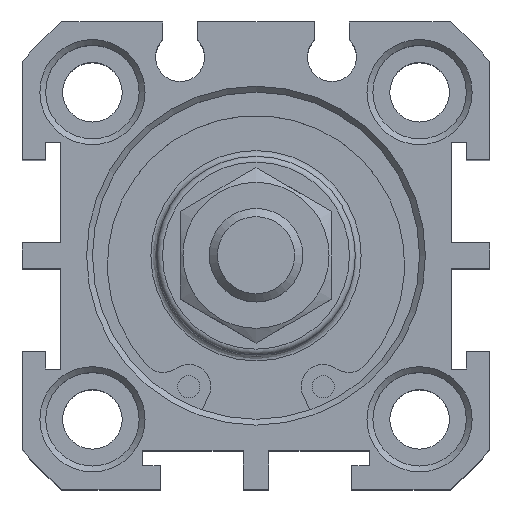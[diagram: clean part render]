
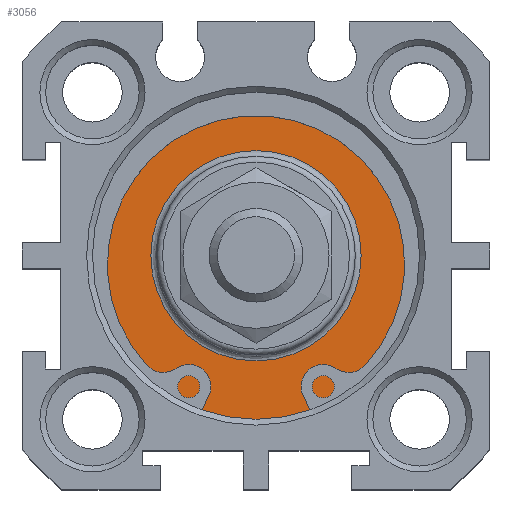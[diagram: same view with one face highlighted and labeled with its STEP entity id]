
A CAD part, top view. The second image highlights one B-rep face of the part: STEP entity #3056.
In plain terms, the highlighted planar face has unit normal (0, 0, 1).
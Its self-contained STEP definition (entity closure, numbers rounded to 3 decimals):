
#3005=CARTESIAN_POINT('',(0.12,10.914,28.3));
#3006=VERTEX_POINT('',#3005);
#3007=CARTESIAN_POINT('',(0.12,1.914,28.3));
#3008=DIRECTION('',(0.0,0.0,1.0));
#3009=DIRECTION('',(0.0,-1.0,0.0));
#3010=AXIS2_PLACEMENT_3D('',#3007,#3008,#3009);
#3011=CIRCLE('',#3010,9.);
#3012=EDGE_CURVE('',#3006,#3006,#3011,.T.);
#3037=CARTESIAN_POINT('',(0.12,13.164,28.3));
#3038=DIRECTION('',(0.0,0.0,1.0));
#3039=DIRECTION('',(1.0,0.0,0.0));
#3040=AXIS2_PLACEMENT_3D('',#3037,#3038,#3039);
#3041=PLANE('',#3040);
#3042=CARTESIAN_POINT('',(0.12,15.914,28.3));
#3043=VERTEX_POINT('',#3042);
#3044=CARTESIAN_POINT('',(0.12,1.914,28.3));
#3045=DIRECTION('',(0.0,0.0,-1.0));
#3046=DIRECTION('',(0.0,1.0,0.0));
#3047=AXIS2_PLACEMENT_3D('',#3044,#3045,#3046);
#3048=CIRCLE('',#3047,14.);
#3049=EDGE_CURVE('',#3043,#3043,#3048,.T.);
#3050=ORIENTED_EDGE('',*,*,#3049,.F.);
#3051=EDGE_LOOP('',(#3050));
#3052=FACE_OUTER_BOUND('',#3051,.T.);
#3053=ORIENTED_EDGE('',*,*,#3012,.F.);
#3054=EDGE_LOOP('',(#3053));
#3055=FACE_BOUND('',#3054,.T.);
#3056=ADVANCED_FACE('',(#3052,#3055),#3041,.T.);
